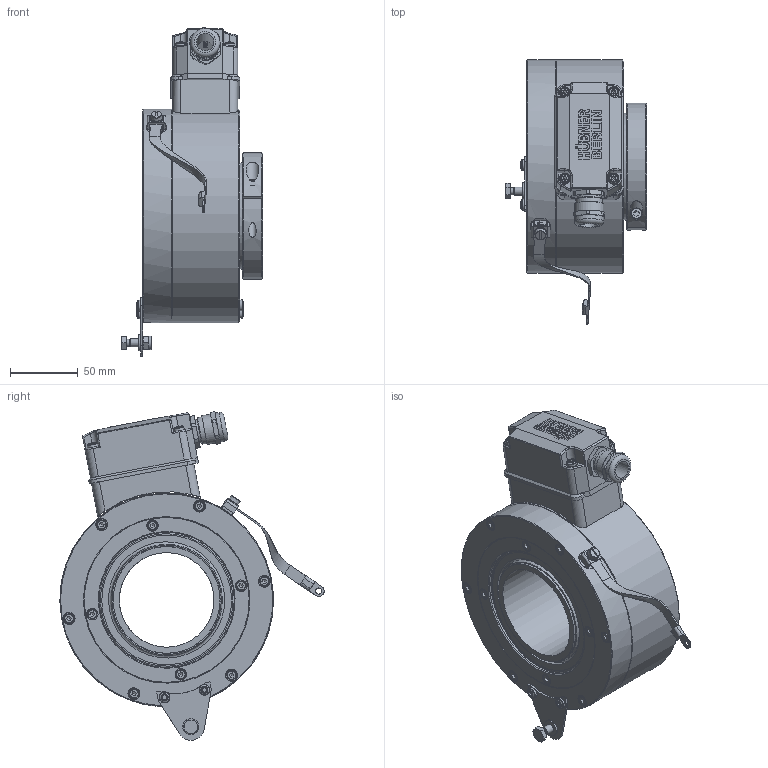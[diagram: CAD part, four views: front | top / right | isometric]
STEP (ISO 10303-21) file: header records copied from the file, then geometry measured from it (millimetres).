
FILE_DESCRIPTION(/* description */ (''),/* implementation_level */ '2;1');
FILE_NAME(/* name */ 'M:\__3D-Daten\Loeschen\Step\Baumer_HOG163-70H7_CAD.stp',/* time_stamp */ '2018-07-30T13:31:01+02:00',/* author */ ('mbir'),/* organization */ (''),/* preprocessor_version */ 'ST-DEVELOPER v16.1',/* originating_system */ 'Autodesk Inventor 2016',/* authorisation */ '');
FILE_SCHEMA (('AUTOMOTIVE_DESIGN { 1 0 10303 214 3 1 1 }'));
Products named in the file (1): Baumer_HOG163-70H7_CAD
Bounding box: 104.5 x 195.46 x 242.98 mm (x, y, z)
Volume: 1259951.5 mm3; surface area: 184771.6 mm2
Topology: 3 solids, 40 shells, 1752 faces, 4597 edges, 2965 vertices
Faces by surface type: plane 895, cylinder 423, bspline 200, cone 175, torus 59
Full cylindrical faces by diameter (mm): 2.459 x2, 2.7 x4, 3.242 x11, 3.5 x10, 3.6 x4, 3.8 x4, 4 x20, 4.134 x1, 4.5 x15, 4.51 x1, 4.917 x3, 5 x7, 5.2 x1, 5.459 x1, 5.5 x2, 6 x2, 6.1 x1, 6.4 x1, 6.5 x7, 6.9 x1, 7 x10, 7.5 x2, 8 x8, 8.5 x11, 8.7 x1, 9.5 x1, 10 x1, 12 x1, 13 x1, 18 x3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
Entity records: 52903 total; most frequent: CARTESIAN_POINT 12446, ORIENTED_EDGE 8280, DIRECTION 7950, EDGE_CURVE 4138, VERTEX_POINT 2834, AXIS2_PLACEMENT_3D 2810, LINE 2330, VECTOR 2330
